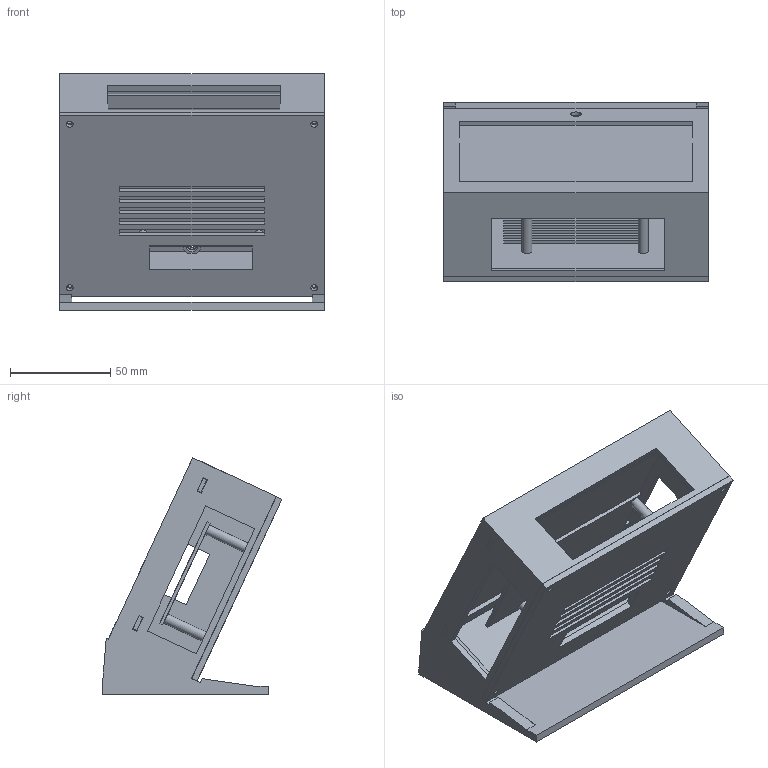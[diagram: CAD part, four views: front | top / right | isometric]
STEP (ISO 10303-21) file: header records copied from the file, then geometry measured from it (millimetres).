
FILE_DESCRIPTION(('Open CASCADE Model'),'2;1');
FILE_NAME('Open CASCADE Shape Model','2026-11-04T16:23:17',('Author'),( 'Open CASCADE'),'Open CASCADE STEP processor 7.8','Open CASCADE 7.8' ,'Unknown');
FILE_SCHEMA(('AUTOMOTIVE_DESIGN { 1 0 10303 214 1 1 1 1 }'));
Length unit declared in the file: millimetre
Products named in the file (7): f3c2e444-d895-11f1-aa37-d12594824cfb; HousingFinal; RearCover; ScreenRetainer0; ScreenRetainer1; Screen_REFERENCE; Pi4_REFERENCE
Assembly tree (6 placements, depth 2):
  f3c2e444-d895-11f1-aa37-d12594824cfb
    HousingFinal
    RearCover
    ScreenRetainer0
    ScreenRetainer1
    Screen_REFERENCE
    Pi4_REFERENCE
Bounding box: 132 x 89.67 x 118.07 mm (x, y, z)
Volume: 222629.6 mm3; surface area: 133824.1 mm2
Topology: 6 solids, 6 shells, 174 faces, 442 edges, 296 vertices
Faces by surface type: plane 135, cylinder 39
Full cylindrical faces by diameter (mm): 2.1 x4, 2.5 x8, 2.7 x4, 3.4 x8, 5 x4, 5.3 x1, 6.2 x1
Entity records: 11192 total; most frequent: CARTESIAN_POINT 1939, DIRECTION 1694, LINE 1098, VECTOR 1098, ORIENTED_EDGE 884, PCURVE 884, DEFINITIONAL_REPRESENTATION 884, EDGE_CURVE 442
